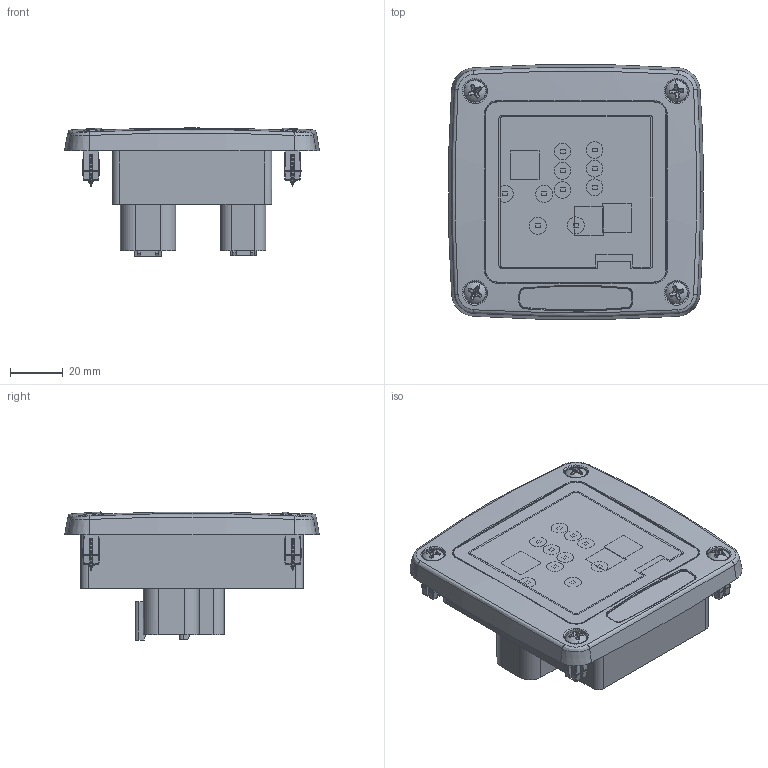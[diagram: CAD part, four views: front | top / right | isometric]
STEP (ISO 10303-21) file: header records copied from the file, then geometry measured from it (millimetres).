
FILE_DESCRIPTION (( 'STEP AP203' ), '1' );
FILE_NAME ('43.006.0 TRV CONTROL HEAD.STEP', '2024-10-31T12:21:40', ( '' ), ( '' ), 'SwSTEP 2.0', 'SolidWorks 2024', '' );
FILE_SCHEMA (( 'CONFIG_CONTROL_DESIGN' ));
Length unit declared in the file: inch
Products named in the file (16): 04.234.0 SCREW, THREAD-FORMING, M2.5 X 6MM, SST; 04.232.0 SQUARE GROMMET NUT, NO. 10; 49.006.0 PCB ASSEMBLY, THERMAGUARD TRV-TMS; Copy of G5Q_1A^49.006.0 PCB ASSEMBLY, THERMAGUARD TRV-TMS; 04.236.0 SCREW, ROUND HEAD, SHEET METAL, NO. 8 X 0.75 IN LG. PH, SST_92470A197; 43.006.0 TRV CONTROL HEAD; Copy of 32A_MCH^49.006.0 PCB ASSEMBLY, THERMAGUARD TRV-TMS; 49.005.0 MEMBRANE SWITCH OVERLAY, THERMAGUARD TMS_BENT RIBBON; 49.005.1 MEMBRANE SWITCH OVERLAY, THERMAGUARD TRV_BENT RIBBON; Copy of FFC CONNECTOR, 1 MM, 10 PIN, BOTTOM CONTACT, MOLEX 52271-1069^49.006.0 PCB ASSEMBLY, THERMAGUARD TRV-TMS; PCB CONNECTOR, 6 POSITION, AMPHENOL AT04_6P_BM02; PCB, THERMGUARD TMS; 08.065.0 REV B BEZEL, THERMAGUARD TRV-TMS; 02.063.0 TAG, THERMAGUARD TRV-TMS; Copy of 21-0041-S163_MXM^49.006.0 PCB ASSEMBLY, THERMAGUARD TRV-TMS; PCB CONNECTOR, 2 POSITION, AMPHENOL AT04-2P-BM02
Assembly tree (25 placements, depth 3):
  43.006.0 TRV CONTROL HEAD
    08.065.0 REV B BEZEL, THERMAGUARD TRV-TMS
    49.005.0 MEMBRANE SWITCH OVERLAY, THERMAGUARD TMS_BENT RIBBON
    49.005.1 MEMBRANE SWITCH OVERLAY, THERMAGUARD TRV_BENT RIBBON
    49.006.0 PCB ASSEMBLY, THERMAGUARD TRV-TMS
      PCB, THERMGUARD TMS
      PCB CONNECTOR, 6 POSITION, AMPHENOL AT04_6P_BM02
      PCB CONNECTOR, 2 POSITION, AMPHENOL AT04-2P-BM02
      Copy of G5Q_1A^49.006.0 PCB ASSEMBLY, THERMAGUARD TRV-TMS  x2
      Copy of 32A_MCH^49.006.0 PCB ASSEMBLY, THERMAGUARD TRV-TMS
      Copy of 21-0041-S163_MXM^49.006.0 PCB ASSEMBLY, THERMAGUARD TRV-TMS
      Copy of FFC CONNECTOR, 1 MM, 10 PIN, BOTTOM CONTACT, MOLEX 52271-1069^49.006.0 PCB ASSEMBLY, THERMAGUARD TRV-TMS
    02.063.0 TAG, THERMAGUARD TRV-TMS
    04.234.0 SCREW, THREAD-FORMING, M2.5 X 6MM, SST  x4
    04.232.0 SQUARE GROMMET NUT, NO. 10  x4
    04.236.0 SCREW, ROUND HEAD, SHEET METAL, NO. 8 X 0.75 IN LG. PH, SST_92470A197  x4
Bounding box: 96.38 x 96.23 x 48.42 mm (x, y, z)
Volume: 73557.5 mm3; surface area: 141838.2 mm2
Topology: 99 solids, 99 shells, 3668 faces, 10123 edges, 6628 vertices
Faces by surface type: plane 2144, cylinder 1048, cone 168, bspline 156, torus 81, sphere 71
Entity records: 102852 total; most frequent: CARTESIAN_POINT 27013, ORIENTED_EDGE 16008, DIRECTION 14628, EDGE_CURVE 8004, VERTEX_POINT 5290, LINE 5200, VECTOR 5200, AXIS2_PLACEMENT_3D 4714
